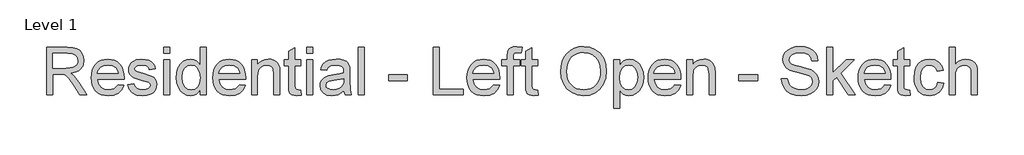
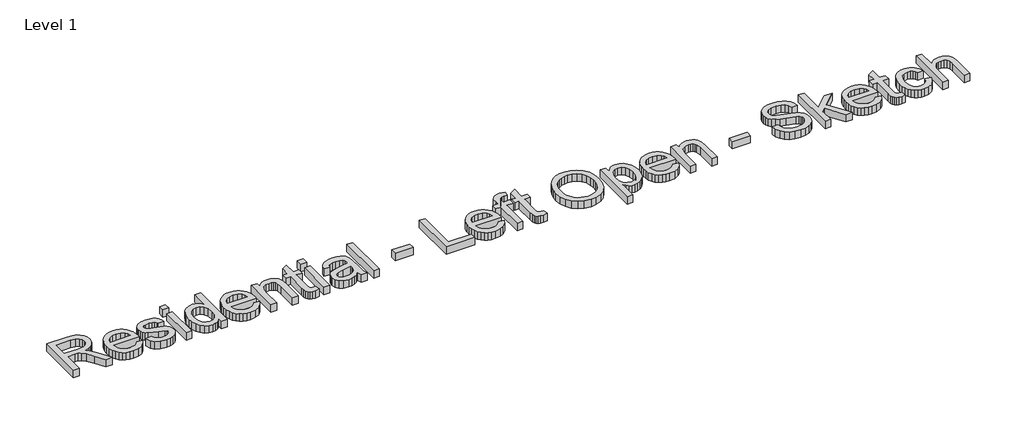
# One storey, part 21 of 26: 1 proxy.
"""IFC4 building model written with IfcOpenShell, lengths in millimetres."""

from ifc_helpers import new_model, si_unit, origin, origin_with_axes, place, context, project, spatial, polyline, outline, extrude, element, save

model = new_model("IFC4")

# Units and contexts
model_context = context("Model", 3, world=origin())
ifc_project = project(units=[si_unit("LENGTHUNIT", "METRE", prefix="MILLI")], contexts=[model_context])

# Site, building, storey
site = spatial("IfcSite", under=ifc_project)
building = spatial("IfcBuilding", under=site)
storey = spatial("IfcBuildingStorey", under=building, Name="Level 1", Elevation=0.0)

# Proxy
placement = place(None, origin())
element("IfcBuildingElementProxy", 1, Name="12\" Arial", ObjectType="12\" Arial", at=placement, inside=storey, context=model_context, shape_type="SweptSolid", body=[
    extrude(outline(polyline([(-4715.4981187, 332.8767877), (-4715.4981187, 632.987557), (-4586.1779264, 632.987557), (-4551.420835, 630.9634945), (-4526.1337918, 624.891307), (-4507.6516283, 613.6811146), (-4493.3091764, 596.2430377), (-4484.1047293, 574.619456), (-4481.0365802, 550.8527493), (-4486.1196331, 521.2886146), (-4501.3687918, 496.780057), (-4512.9201439, 486.7925449), (-4527.2419889, 478.8107781), (-4564.1971571, 468.86448), (-4542.875811, 452.8185185), (-4512.4690802, 414.2056339), (-4462.4261956, 332.8767877), (-4506.0213879, 332.8767877), (-4545.0738879, 395.0823646), (-4573.2825418, 436.2596723), (-4593.1018687, 455.7126531), (-4610.9429264, 462.8564031), (-4632.7038879, 464.1752493), (-4677.9842725, 464.1752493), (-4677.9842725, 332.8767877), (-4715.4981187, 332.8767877)]), holes=[polyline([(-4677.9842725, 501.6890954), (-4594.0177341, 501.6890954), (-4569.9029985, 503.0171002), (-4551.1918687, 507.0011146), (-4537.1058591, 513.9067396), (-4526.8664841, 523.9995762), (-4520.6294408, 536.2080618), (-4518.5504264, 549.4606339), (-4522.5161235, 567.7596243), (-4534.4132148, 582.505057), (-4554.8828062, 592.2315473), (-4584.5660033, 595.4737108), (-4677.9842725, 595.4737108), (-4677.9842725, 501.6890954)])]), origin_with_axes(), (0.0, 0.0, 1.0), 50.8),
    extrude(outline(polyline([(-4265.7715802, 398.5260185), (-4228.9904264, 393.8367877), (-4242.2429985, 366.1227012), (-4263.3903302, 345.4058262), (-4291.9561716, 332.4921243), (-4327.4642725, 328.187557), (-4350.7409913, 330.044474), (-4371.4807629, 335.6152252), (-4389.6835874, 344.8998106), (-4405.3494648, 357.89823), (-4417.9471932, 374.2487168), (-4426.9455706, 393.5895041), (-4432.344597, 415.9205918), (-4434.1442725, 441.24198), (-4432.3262797, 467.4219921), (-4426.8723014, 490.4972204), (-4417.7823374, 510.4676651), (-4405.0563879, 527.3333262), (-4389.4317244, 540.7324368), (-4371.6456187, 550.30323), (-4351.6980706, 556.045706), (-4329.5890802, 557.9598646), (-4308.1921752, 556.0502853), (-4288.8422293, 550.3215473), (-4271.5392425, 540.7736507), (-4256.2832148, 527.4065954), (-4243.8297353, 510.577569), (-4234.9343927, 490.6437589), (-4229.5971872, 467.6051651), (-4227.8181187, 441.4617877), (-4228.0379264, 431.3506339), (-4396.6304264, 431.3506339), (-4390.1369408, 403.2702012), (-4375.0526379, 382.6265954), (-4353.2825177, 369.9327012), (-4326.7315802, 365.7014031), (-4306.7657148, 367.661355), (-4289.9504264, 373.5412108), (-4276.2857148, 383.7073166), (-4265.7715802, 398.5260185)]), holes=[polyline([(-4396.6304264, 468.86448), (-4265.3319648, 468.86448), (-4270.4058591, 488.683807), (-4280.3521571, 502.8614031), (-4302.2230225, 516.0498646), (-4329.7356187, 520.4460185), (-4355.0226619, 516.9382541), (-4375.9318687, 506.4149608), (-4390.4666523, 490.0118118), (-4396.6304264, 468.86448)])]), origin_with_axes(), (0.0, 0.0, 1.0), 50.8),
    extrude(outline(polyline([(-4204.3719648, 398.5260185), (-4166.8581187, 403.2152493), (-4160.9416283, 387.1692877), (-4149.493311, 375.3729416), (-4132.4398975, 368.1192877), (-4109.7081187, 365.7014031), (-4087.2510994, 367.9177973), (-4071.4615802, 374.56698), (-4062.1197533, 384.2018839), (-4059.005811, 395.3754416), (-4062.1380706, 404.9370762), (-4071.5348494, 412.2273646), (-4110.1477341, 422.9246723), (-4166.638311, 441.2786146), (-4180.9349696, 450.5013791), (-4191.2934071, 462.7098646), (-4197.5854023, 477.1255858), (-4199.6827341, 492.970057), (-4197.9975418, 507.5048406), (-4192.9419648, 520.9222685), (-4184.973936, 532.6911387), (-4174.5513879, 542.2802493), (-4150.7022533, 553.3805377), (-4118.4271571, 557.9598646), (-4094.010186, 556.1189752), (-4072.7804264, 550.596307), (-4055.7086956, 541.9322204), (-4043.765811, 530.6670762), (-4035.8527341, 515.9674368), (-4030.8704264, 496.9998646), (-4068.3842725, 492.3106339), (-4073.1192966, 504.1161387), (-4082.4885994, 513.0091916), (-4096.5837677, 518.5868118), (-4115.4963879, 520.4460185), (-4137.0375418, 518.6692396), (-4151.398311, 513.3389031), (-4159.4762437, 505.6456339), (-4162.1688879, 496.780057), (-4157.6994648, 485.8629416), (-4143.7050418, 477.5835185), (-4111.393311, 469.5971723), (-4056.3314841, 451.9392877), (-4041.7875418, 443.4950089), (-4030.7605225, 431.9367877), (-4023.8091043, 417.2279896), (-4021.4919648, 399.33198), (-4024.212085, 380.8314993), (-4032.3724456, 363.430057), (-4045.6616523, 348.4922925), (-4063.768311, 337.3828454), (-4085.6391764, 330.4863791), (-4110.2210033, 328.187557), (-4148.0462437, 332.6203454), (-4175.6504264, 345.9187108), (-4194.0776379, 367.9361146), (-4204.3719648, 398.5260185)])), origin_with_axes(), (0.0, 0.0, 1.0), 50.8),
    extrude(outline(polyline([(-3979.2888879, 332.8767877), (-3979.2888879, 553.2706339), (-3941.7750418, 553.2706339), (-3941.7750418, 332.8767877), (-3979.2888879, 332.8767877)])), origin_with_axes(), (0.0, 0.0, 1.0), 50.8),
    extrude(outline(polyline([(-3979.2888879, 595.4737108), (-3979.2888879, 632.987557), (-3941.7750418, 632.987557), (-3941.7750418, 595.4737108), (-3979.2888879, 595.4737108)])), origin_with_axes(), (0.0, 0.0, 1.0), 50.8),
    extrude(outline(polyline([(-3749.5165802, 332.8767877), (-3749.5165802, 368.2658262), (-3760.7405105, 350.7315834), (-3774.3365321, 338.2071243), (-3790.3046451, 330.6924488), (-3808.6448494, 328.187557), (-3832.8969648, 331.8143839), (-3855.0975418, 342.6948646), (-3873.8910994, 360.068831), (-3887.9221571, 383.1761146), (-3896.6595129, 411.0825329), (-3899.5719648, 442.8539031), (-3896.8884793, 474.2314512), (-3888.8380225, 502.5683262), (-3875.4297533, 526.252605), (-3856.6728302, 543.6723646), (-3833.9868446, 554.3879896), (-3808.7913879, 557.9598646), (-3790.4374456, 555.4046002), (-3774.208311, 547.738807), (-3760.4520129, 535.9882541), (-3749.5165802, 521.1787108), (-3749.5165802, 632.987557), (-3712.0027341, 632.987557), (-3712.0027341, 332.8767877), (-3749.5165802, 332.8767877)]), holes=[polyline([(-3862.0581187, 443.0004416), (-3857.8268206, 409.0676291), (-3845.1329264, 384.9345762), (-3826.6873975, 370.5096964), (-3805.2011956, 365.7014031), (-3783.7241523, 370.2898887), (-3765.7457148, 384.0553454), (-3753.5738639, 407.2542156), (-3749.5165802, 440.1429416), (-3753.6471331, 476.0998166), (-3766.0387918, 501.0296723), (-3784.4751619, 515.591932), (-3806.7398494, 520.4460185), (-3828.4458591, 515.7842637), (-3846.2319648, 501.7989993), (-3858.1015802, 477.7758502), (-3862.0581187, 443.0004416)])]), origin_with_axes(), (0.0, 0.0, 1.0), 50.8),
    extrude(outline(polyline([(-3501.4269648, 398.5260185), (-3464.645811, 393.8367877), (-3477.8983831, 366.1227012), (-3499.0457148, 345.4058262), (-3527.6115562, 332.4921243), (-3563.1196571, 328.187557), (-3586.3963759, 330.044474), (-3607.1361475, 335.6152252), (-3625.338972, 344.8998106), (-3641.0048494, 357.89823), (-3653.6025778, 374.2487168), (-3662.6009552, 393.5895041), (-3667.9999817, 415.9205918), (-3669.7996571, 441.24198), (-3667.9816643, 467.4219921), (-3662.527686, 490.4972204), (-3653.437722, 510.4676651), (-3640.7117725, 527.3333262), (-3625.0871091, 540.7324368), (-3607.3010033, 550.30323), (-3587.3534552, 556.045706), (-3565.2444648, 557.9598646), (-3543.8475598, 556.0502853), (-3524.4976139, 550.3215473), (-3507.1946271, 540.7736507), (-3491.9385994, 527.4065954), (-3479.4851199, 510.577569), (-3470.5897773, 490.6437589), (-3465.2525718, 467.6051651), (-3463.4735033, 441.4617877), (-3463.693311, 431.3506339), (-3632.285811, 431.3506339), (-3625.7923254, 403.2702012), (-3610.7080225, 382.6265954), (-3588.9379023, 369.9327012), (-3562.3869648, 365.7014031), (-3542.4210994, 367.661355), (-3525.605811, 373.5412108), (-3511.9410994, 383.7073166), (-3501.4269648, 398.5260185)]), holes=[polyline([(-3632.285811, 468.86448), (-3500.9873494, 468.86448), (-3506.0612437, 488.683807), (-3516.0075418, 502.8614031), (-3537.8784071, 516.0498646), (-3565.3910033, 520.4460185), (-3590.6780466, 516.9382541), (-3611.5872533, 506.4149608), (-3626.1220369, 490.0118118), (-3632.285811, 468.86448)])]), origin_with_axes(), (0.0, 0.0, 1.0), 50.8),
    extrude(outline(polyline([(-3425.9596571, 332.8767877), (-3425.9596571, 553.2706339), (-3388.445811, 553.2706339), (-3388.445811, 522.497557), (-3375.4130466, 538.0123166), (-3359.7609071, 549.0942877), (-3341.4893927, 555.7434704), (-3320.5985033, 557.9598646), (-3302.1071812, 556.1739271), (-3285.1728302, 550.8161146), (-3271.050186, 542.5550089), (-3260.9939841, 532.0591916), (-3249.7471571, 504.4733262), (-3247.7688879, 468.205057), (-3247.7688879, 332.8767877), (-3285.2827341, 332.8767877), (-3285.2827341, 463.14948), (-3289.6056187, 496.3404416), (-3295.5862196, 506.2226291), (-3304.8822533, 513.8884223), (-3316.7976619, 518.8066195), (-3330.6363879, 520.4460185), (-3352.6079985, 516.7642396), (-3371.3374456, 505.7189031), (-3378.8223555, 496.7022084), (-3384.1687196, 484.3792396), (-3388.445811, 449.81448), (-3388.445811, 332.8767877), (-3425.9596571, 332.8767877)])), origin_with_axes(), (0.0, 0.0, 1.0), 50.8),
    extrude(outline(polyline([(-3116.4704264, 364.1627493), (-3111.7811956, 331.7777493), (-3139.843311, 328.187557), (-3157.8492244, 329.7445281), (-3171.275811, 334.4154416), (-3180.7641764, 341.6141435), (-3186.9554264, 350.75448), (-3190.3624456, 366.4524127), (-3191.4981187, 393.3239031), (-3191.4981187, 515.7567877), (-3219.6335033, 515.7567877), (-3219.6335033, 553.2706339), (-3191.4981187, 553.2706339), (-3191.4981187, 606.8304416), (-3153.9842725, 628.88448), (-3153.9842725, 553.2706339), (-3116.4704264, 553.2706339), (-3116.4704264, 515.7567877), (-3153.9842725, 515.7567877), (-3153.9842725, 394.4229416), (-3152.0060033, 375.0798646), (-3145.5949456, 368.2291916), (-3132.8094648, 365.7014031), (-3116.4704264, 364.1627493)])), origin_with_axes(), (0.0, 0.0, 1.0), 50.8),
    extrude(outline(polyline([(-3078.9565802, 332.8767877), (-3078.9565802, 553.2706339), (-3041.4427341, 553.2706339), (-3041.4427341, 332.8767877), (-3078.9565802, 332.8767877)])), origin_with_axes(), (0.0, 0.0, 1.0), 50.8),
    extrude(outline(polyline([(-3078.9565802, 595.4737108), (-3078.9565802, 632.987557), (-3041.4427341, 632.987557), (-3041.4427341, 595.4737108), (-3078.9565802, 595.4737108)])), origin_with_axes(), (0.0, 0.0, 1.0), 50.8),
    extrude(outline(polyline([(-2844.4950418, 361.0121723), (-2862.4185273, 345.6439512), (-2880.8732148, 335.5877493), (-2900.2804023, 330.037605), (-2921.0613879, 328.187557), (-2952.41146, 332.6386627), (-2975.537061, 345.99198), (-2989.797085, 366.2692396), (-2994.5504264, 391.4921723), (-2992.7553302, 407.0435666), (-2987.3700418, 421.1662108), (-2979.0631427, 433.2556339), (-2968.5032148, 442.7073646), (-2942.2361956, 455.0165954), (-2909.7779264, 460.6583262), (-2871.4214841, 466.5931339), (-2844.7148494, 473.5537108), (-2844.4950418, 481.9064031), (-2847.0777821, 498.6484223), (-2854.8260033, 509.6021723), (-2872.1541764, 517.735057), (-2896.2963879, 520.4460185), (-2918.6435033, 518.6417637), (-2934.2498494, 513.2289993), (-2944.8922052, 503.2185906), (-2952.3473494, 487.6214031), (-2989.8611956, 492.3106339), (-2983.3493927, 512.8260185), (-2973.632061, 528.9452493), (-2959.8024937, 541.2727973), (-2940.9539841, 550.4131339), (-2917.9016523, 556.073182), (-2891.4606187, 557.9598646), (-2866.1003062, 556.2929896), (-2845.997061, 551.2923646), (-2830.8394889, 543.7731098), (-2820.3161956, 534.5503454), (-2813.3373014, 523.1478214), (-2808.8129264, 509.0892877), (-2806.9811956, 476.2646723), (-2806.9811956, 429.5921723), (-2805.0761956, 364.4191916), (-2797.6027341, 332.8767877), (-2835.1165802, 332.8767877), (-2844.4950418, 361.0121723)]), holes=[polyline([(-2844.4950418, 436.0398646), (-2905.0154264, 424.5365954), (-2937.2905225, 418.4552493), (-2951.9077341, 408.5639031), (-2957.0365802, 394.1298646), (-2954.2431908, 382.9746243), (-2945.8630225, 373.8342877), (-2932.0792485, 367.7346243), (-2913.0750418, 365.7014031), (-2892.9260033, 367.9452733), (-2875.1215802, 374.6768839), (-2860.6875418, 384.595706), (-2850.6496571, 396.4012108), (-2846.1985514, 408.5639031), (-2844.7148494, 425.4158262), (-2844.4950418, 436.0398646)])]), origin_with_axes(), (0.0, 0.0, 1.0), 50.8),
    extrude(outline(polyline([(-2755.3996571, 332.8767877), (-2755.3996571, 632.987557), (-2717.885811, 632.987557), (-2717.885811, 332.8767877), (-2755.3996571, 332.8767877)])), origin_with_axes(), (0.0, 0.0, 1.0), 50.8),
    extrude(outline(polyline([(-2563.1411956, 421.9721723), (-2563.1411956, 459.4860185), (-2445.9104264, 459.4860185), (-2445.9104264, 421.9721723), (-2563.1411956, 421.9721723)])), origin_with_axes(), (0.0, 0.0, 1.0), 50.8),
    extrude(outline(polyline([(-2281.7873494, 332.8767877), (-2281.7873494, 632.987557), (-2244.2735033, 632.987557), (-2244.2735033, 370.3906339), (-2094.2181187, 370.3906339), (-2094.2181187, 332.8767877), (-2281.7873494, 332.8767877)])), origin_with_axes(), (0.0, 0.0, 1.0), 50.8),
    extrude(outline(polyline([(-1902.3992725, 398.5260185), (-1865.6181187, 393.8367877), (-1878.8706908, 366.1227012), (-1900.0180225, 345.4058262), (-1928.5838639, 332.4921243), (-1964.0919648, 328.187557), (-1987.3686836, 330.044474), (-2008.1084552, 335.6152252), (-2026.3112797, 344.8998106), (-2041.9771571, 357.89823), (-2054.5748855, 374.2487168), (-2063.5732629, 393.5895041), (-2068.9722893, 415.9205918), (-2070.7719648, 441.24198), (-2068.953972, 467.4219921), (-2063.4999937, 490.4972204), (-2054.4100297, 510.4676651), (-2041.6840802, 527.3333262), (-2026.0594168, 540.7324368), (-2008.273311, 550.30323), (-1988.3257629, 556.045706), (-1966.2167725, 557.9598646), (-1944.8198675, 556.0502853), (-1925.4699216, 550.3215473), (-1908.1669348, 540.7736507), (-1892.9109071, 527.4065954), (-1880.4574276, 510.577569), (-1871.562085, 490.6437589), (-1866.2248795, 467.6051651), (-1864.445811, 441.4617877), (-1864.6656187, 431.3506339), (-2033.2581187, 431.3506339), (-2026.7646331, 403.2702012), (-2011.6803302, 382.6265954), (-1989.91021, 369.9327012), (-1963.3592725, 365.7014031), (-1943.3934071, 367.661355), (-1926.5781187, 373.5412108), (-1912.9134071, 383.7073166), (-1902.3992725, 398.5260185)]), holes=[polyline([(-2033.2581187, 468.86448), (-1901.9596571, 468.86448), (-1907.0335514, 488.683807), (-1916.9798494, 502.8614031), (-1938.8507148, 516.0498646), (-1966.363311, 520.4460185), (-1991.6503543, 516.9382541), (-2012.559561, 506.4149608), (-2027.0943446, 490.0118118), (-2033.2581187, 468.86448)])]), origin_with_axes(), (0.0, 0.0, 1.0), 50.8),
    extrude(outline(polyline([(-1817.5535033, 332.8767877), (-1817.5535033, 515.7567877), (-1850.3781187, 515.7567877), (-1850.3781187, 553.2706339), (-1817.5535033, 553.2706339), (-1817.5535033, 575.4712108), (-1813.5969648, 606.7571723), (-1806.0502341, 619.2312589), (-1794.4004264, 629.1042877), (-1778.0980225, 635.5336627), (-1756.5935033, 637.6767877), (-1722.3767725, 633.5737108), (-1727.8719648, 598.40448), (-1749.4863879, 600.1629416), (-1763.7464119, 598.6059704), (-1773.1157148, 593.935057), (-1778.3086716, 585.0145281), (-1780.0396571, 570.7087108), (-1780.0396571, 553.2706339), (-1737.8365802, 553.2706339), (-1737.8365802, 515.7567877), (-1780.0396571, 515.7567877), (-1780.0396571, 332.8767877), (-1817.5535033, 332.8767877)])), origin_with_axes(), (0.0, 0.0, 1.0), 50.8),
    extrude(outline(polyline([(-1625.2950418, 364.1627493), (-1620.605811, 331.7777493), (-1648.6679264, 328.187557), (-1666.6738398, 329.7445281), (-1680.1004264, 334.4154416), (-1689.5887918, 341.6141435), (-1695.7800418, 350.75448), (-1699.187061, 366.4524127), (-1700.3227341, 393.3239031), (-1700.3227341, 515.7567877), (-1728.4581187, 515.7567877), (-1728.4581187, 553.2706339), (-1700.3227341, 553.2706339), (-1700.3227341, 606.8304416), (-1662.8088879, 628.88448), (-1662.8088879, 553.2706339), (-1625.2950418, 553.2706339), (-1625.2950418, 515.7567877), (-1662.8088879, 515.7567877), (-1662.8088879, 394.4229416), (-1660.8306187, 375.0798646), (-1654.419561, 368.2291916), (-1641.6340802, 365.7014031), (-1625.2950418, 364.1627493)])), origin_with_axes(), (0.0, 0.0, 1.0), 50.8),
    extrude(outline(polyline([(-1479.9288879, 478.9756339), (-1477.4285754, 514.1769199), (-1469.9276379, 545.3392396), (-1457.4260754, 572.462593), (-1439.9238879, 595.54698), (-1418.4697413, 613.9787709), (-1394.1123014, 627.1443358), (-1366.8515682, 635.0436747), (-1336.6875418, 637.6767877), (-1297.3236475, 632.7311146), (-1262.0261956, 617.8940954), (-1232.7185033, 594.2098166), (-1211.3238879, 562.7223646), (-1198.2453302, 524.9520762), (-1193.885811, 482.4192877), (-1198.4742966, 439.3186627), (-1212.2397533, 401.0171723), (-1234.4220129, 369.4747685), (-1264.2609071, 346.6514031), (-1299.2561235, 332.8035185), (-1336.9073494, 328.187557), (-1376.8757148, 333.2889271), (-1412.3746571, 348.5930377), (-1441.6090802, 372.716932), (-1462.7838879, 404.2776531), (-1475.6426379, 440.5917156), (-1479.9288879, 478.9756339)]), holes=[polyline([(-1442.4150418, 478.6092877), (-1440.5398074, 453.7389632), (-1434.9141043, 431.6620281), (-1425.5379324, 412.3784824), (-1412.4112918, 395.8883262), (-1396.4546271, 382.6815473), (-1378.5883831, 373.2481339), (-1358.8125598, 367.5880858), (-1337.1271571, 365.7014031), (-1315.070829, 367.6064031), (-1295.06146, 373.3214031), (-1277.0990502, 382.8464031), (-1261.1835994, 396.1814031), (-1248.1531247, 413.0195882), (-1238.8456427, 433.0541435), (-1233.2611535, 456.285069), (-1231.3996571, 482.7123646), (-1234.5868687, 515.9216435), (-1244.1485033, 544.6248646), (-1259.8372773, 568.0984945), (-1281.4059071, 585.6189993), (-1307.4256427, 596.526956), (-1336.4677341, 600.1629416), (-1357.3998374, 598.411349), (-1376.8207629, 593.1565714), (-1394.7305105, 584.3986086), (-1411.1290802, 572.1374608), (-1424.8166884, 555.7823947), (-1434.5935514, 534.7426771), (-1440.4596692, 509.0183082), (-1442.4150418, 478.6092877)])]), origin_with_axes(), (0.0, 0.0, 1.0), 50.8),
    extrude(outline(polyline([(-1146.9935033, 248.4706339), (-1146.9935033, 553.2706339), (-1109.4796571, 553.2706339), (-1109.4796571, 516.48948), (-1097.2436956, 534.6327733), (-1083.5423494, 547.5922685), (-1067.5696571, 555.3679656), (-1048.5196571, 557.9598646), (-1023.150186, 554.3330377), (-1000.9679264, 543.452557), (-982.907061, 525.9778454), (-969.9017725, 502.5683262), (-962.0436475, 474.9275089), (-959.4242725, 444.7589031), (-962.3825177, 412.6761387), (-971.2572533, 383.9820762), (-985.764561, 360.1329416), (-1005.6205225, 342.5849608), (-1028.7461235, 331.7869079), (-1053.0623494, 328.187557), (-1070.3080946, 330.5962829), (-1085.7037918, 337.8224608), (-1098.8830946, 348.7304175), (-1109.4796571, 362.18448), (-1109.4796571, 248.4706339), (-1146.9935033, 248.4706339)]), holes=[polyline([(-1109.4796571, 441.3152493), (-1105.4223735, 407.6846723), (-1093.2505225, 384.1652493), (-1075.2904023, 370.3173646), (-1053.868311, 365.7014031), (-1032.0981908, 370.4822204), (-1013.6801379, 384.8246723), (-1001.1236235, 409.2050089), (-996.9381187, 444.09948), (-1001.0228783, 477.5468839), (-1013.2771571, 501.3960185), (-1031.2098014, 515.6835185), (-1052.3296571, 520.4460185), (-1073.5319408, 515.3812829), (-1092.1514841, 500.1870762), (-1105.1476139, 475.3396483), (-1109.4796571, 441.3152493)])]), origin_with_axes(), (0.0, 0.0, 1.0), 50.8),
    extrude(outline(polyline([(-762.9161956, 398.5260185), (-726.1350418, 393.8367877), (-739.3876139, 366.1227012), (-760.5349456, 345.4058262), (-789.1007869, 332.4921243), (-824.6088879, 328.187557), (-847.8856067, 330.044474), (-868.6253783, 335.6152252), (-886.8282028, 344.8998106), (-902.4940802, 357.89823), (-915.0918086, 374.2487168), (-924.090186, 393.5895041), (-929.4892124, 415.9205918), (-931.2888879, 441.24198), (-929.4708951, 467.4219921), (-924.0169168, 490.4972204), (-914.9269528, 510.4676651), (-902.2010033, 527.3333262), (-886.5763398, 540.7324368), (-868.7902341, 550.30323), (-848.842686, 556.045706), (-826.7336956, 557.9598646), (-805.3367905, 556.0502853), (-785.9868446, 550.3215473), (-768.6838579, 540.7736507), (-753.4278302, 527.4065954), (-740.9743506, 510.577569), (-732.0790081, 490.6437589), (-726.7418026, 467.6051651), (-724.9627341, 441.4617877), (-725.1825418, 431.3506339), (-893.7750418, 431.3506339), (-887.2815562, 403.2702012), (-872.1972533, 382.6265954), (-850.4271331, 369.9327012), (-823.8761956, 365.7014031), (-803.9103302, 367.661355), (-787.0950418, 373.5412108), (-773.4303302, 383.7073166), (-762.9161956, 398.5260185)]), holes=[polyline([(-893.7750418, 468.86448), (-762.4765802, 468.86448), (-767.5504744, 488.683807), (-777.4967725, 502.8614031), (-799.3676379, 516.0498646), (-826.8802341, 520.4460185), (-852.1672773, 516.9382541), (-873.0764841, 506.4149608), (-887.6112677, 490.0118118), (-893.7750418, 468.86448)])]), origin_with_axes(), (0.0, 0.0, 1.0), 50.8),
    extrude(outline(polyline([(-687.4488879, 332.8767877), (-687.4488879, 553.2706339), (-649.9350418, 553.2706339), (-649.9350418, 522.497557), (-636.9022773, 538.0123166), (-621.2501379, 549.0942877), (-602.9786235, 555.7434704), (-582.0877341, 557.9598646), (-563.5964119, 556.1739271), (-546.662061, 550.8161146), (-532.5394168, 542.5550089), (-522.4832148, 532.0591916), (-511.2363879, 504.4733262), (-509.2581187, 468.205057), (-509.2581187, 332.8767877), (-546.7719648, 332.8767877), (-546.7719648, 463.14948), (-551.0948494, 496.3404416), (-557.0754504, 506.2226291), (-566.3714841, 513.8884223), (-578.2868927, 518.8066195), (-592.1256187, 520.4460185), (-614.0972293, 516.7642396), (-632.8266764, 505.7189031), (-640.3115862, 496.7022084), (-645.6579504, 484.3792396), (-649.9350418, 449.81448), (-649.9350418, 332.8767877), (-687.4488879, 332.8767877)])), origin_with_axes(), (0.0, 0.0, 1.0), 50.8),
    extrude(outline(polyline([(-359.2027341, 421.9721723), (-359.2027341, 459.4860185), (-241.9719648, 459.4860185), (-241.9719648, 421.9721723), (-359.2027341, 421.9721723)])), origin_with_axes(), (0.0, 0.0, 1.0), 50.8),
    extrude(outline(polyline([(-91.9165802, 436.0398646), (-54.4027341, 436.0398646), (-50.0981668, 415.2222445), (-42.313311, 398.4893839), (-30.168936, 385.2093358), (-12.785811, 374.7501531), (8.4622659, 367.9635906), (32.2014967, 365.7014031), (53.1015448, 367.4140714), (71.4005352, 372.5520762), (86.2283957, 380.6849608), (96.7150544, 391.3822685), (102.9520977, 403.6640233), (105.0311121, 416.5502493), (103.4741409, 429.1067637), (98.8032275, 439.9597685), (89.3148621, 449.2191675), (73.3055352, 456.9948646), (18.6833236, 471.3189993), (-17.1728062, 480.798206), (-40.1152341, 489.81948), (-58.7897293, 502.440105), (-72.0239841, 517.735057), (-79.909585, 535.3746243), (-82.5381187, 555.0290954), (-79.2867966, 577.000706), (-69.5328302, 597.4886146), (-53.5326619, 614.8534223), (-31.5427341, 627.45573), (-5.1474937, 635.1215233), (24.0686121, 637.6767877), (55.7209198, 635.0024608), (83.416689, 626.97948), (106.1667852, 613.7727012), (122.9820736, 595.54698), (133.6244294, 573.4379896), (137.8557275, 548.5814031), (100.3418813, 548.5814031), (93.4545736, 570.9651531), (79.0938044, 587.1210185), (56.6551025, 596.9024608), (25.5339967, 600.1629416), (-6.3198014, 596.9390954), (-28.1723494, 587.267557), (-40.8112918, 573.0350089), (-45.0242725, 556.1281339), (-42.0385514, 541.7124127), (-33.0813879, 530.117557), (-11.9065802, 519.7499608), (28.171689, 509.162557), (69.5321698, 499.106355), (94.5536121, 490.3323646), (115.9390688, 476.722605), (130.8585159, 459.9256339), (139.6233477, 440.1246243), (142.5449582, 417.5027493), (139.1837323, 394.3771483), (129.1000544, 372.6253454), (112.706064, 353.905057), (90.4139006, 339.8739993), (63.6065207, 331.1091675), (33.6668813, 328.187557), (-3.0867966, 331.3381339), (-33.3378302, 340.7898646), (-57.4342485, 356.5793839), (-75.7240802, 378.7433262), (-87.4654744, 405.7430377), (-91.9165802, 436.0398646)])), origin_with_axes(), (0.0, 0.0, 1.0), 50.8),
    extrude(outline(polyline([(194.1264967, 332.8767877), (194.1264967, 632.987557), (231.6403429, 632.987557), (231.6403429, 471.72198), (315.7534198, 553.2706339), (367.6280352, 553.2706339), (282.489189, 470.6962108), (372.3172659, 332.8767877), (328.5022659, 332.8767877), (255.5993813, 444.6123646), (231.6403429, 421.3860185), (231.6403429, 332.8767877), (194.1264967, 332.8767877)])), origin_with_axes(), (0.0, 0.0, 1.0), 50.8),
    extrude(outline(polyline([(559.4468813, 398.5260185), (596.2280352, 393.8367877), (582.9754631, 366.1227012), (561.8281313, 345.4058262), (533.26229, 332.4921243), (497.754189, 328.187557), (474.4774703, 330.044474), (453.7376986, 335.6152252), (435.5348741, 344.8998106), (419.8689967, 357.89823), (407.2712683, 374.2487168), (398.2728909, 393.5895041), (392.8738645, 415.9205918), (391.074189, 441.24198), (392.8921818, 467.4219921), (398.3461602, 490.4972204), (407.4361241, 510.4676651), (420.1620736, 527.3333262), (435.7867371, 540.7324368), (453.5728429, 550.30323), (473.5203909, 556.045706), (495.6293813, 557.9598646), (517.0262864, 556.0502853), (536.3762323, 550.3215473), (553.6792191, 540.7736507), (568.9352467, 527.4065954), (581.3887263, 510.577569), (590.2840688, 490.6437589), (595.6212744, 467.6051651), (597.4003429, 441.4617877), (597.1805352, 431.3506339), (428.5880352, 431.3506339), (435.0815207, 403.2702012), (450.1658236, 382.6265954), (471.9359438, 369.9327012), (498.4868813, 365.7014031), (518.4527467, 367.661355), (535.2680352, 373.5412108), (548.9327467, 383.7073166), (559.4468813, 398.5260185)]), holes=[polyline([(428.5880352, 468.86448), (559.8864967, 468.86448), (554.8126025, 488.683807), (544.8663044, 502.8614031), (522.995439, 516.0498646), (495.4828429, 520.4460185), (470.1957996, 516.9382541), (449.2865929, 506.4149608), (434.7518092, 490.0118118), (428.5880352, 468.86448)])]), origin_with_axes(), (0.0, 0.0, 1.0), 50.8),
    extrude(outline(polyline([(714.6311121, 364.1627493), (719.3203429, 331.7777493), (691.2582275, 328.187557), (673.252314, 329.7445281), (659.8257275, 334.4154416), (650.3373621, 341.6141435), (644.1461121, 350.75448), (640.7390929, 366.4524127), (639.6034198, 393.3239031), (639.6034198, 515.7567877), (611.4680352, 515.7567877), (611.4680352, 553.2706339), (639.6034198, 553.2706339), (639.6034198, 606.8304416), (677.1172659, 628.88448), (677.1172659, 553.2706339), (714.6311121, 553.2706339), (714.6311121, 515.7567877), (677.1172659, 515.7567877), (677.1172659, 394.4229416), (679.0955352, 375.0798646), (685.5065929, 368.2291916), (698.2920736, 365.7014031), (714.6311121, 364.1627493)])), origin_with_axes(), (0.0, 0.0, 1.0), 50.8),
    extrude(outline(polyline([(892.8218813, 412.5937108), (930.3357275, 407.90448), (919.8765448, 374.5395041), (900.2220736, 349.32573), (873.2223621, 333.4721002), (840.7274582, 328.187557), (819.6877407, 330.030736), (800.8232034, 335.5602733), (784.1338465, 344.7761687), (769.6196698, 357.6784223), (757.8714066, 374.0243298), (749.47979, 393.5711868), (744.44482, 416.3189933), (742.7664967, 442.2677493), (745.6331554, 475.6510425), (754.2331313, 504.58323), (768.7038044, 527.946956), (789.1825544, 544.6248646), (813.6819534, 554.6261146), (840.2145736, 557.9598646), (871.9126746, 553.3805377), (897.2546698, 539.642557), (915.4345977, 517.4786146), (925.6464967, 487.6214031), (888.1326506, 482.9321723), (881.3277707, 499.2986868), (870.7312082, 511.0309223), (856.9291169, 518.0922445), (840.5076506, 520.4460185), (816.2646938, 515.8117396), (797.0223621, 501.9089031), (784.4658477, 477.9864993), (780.2803429, 443.2935185), (784.3742611, 408.1334464), (796.6560159, 384.1286146), (815.5503188, 370.308206), (839.4818813, 365.7014031), (858.9073861, 368.5772204), (874.8342852, 377.2046723), (886.4199823, 391.8035666), (892.8218813, 412.5937108)])), origin_with_axes(), (0.0, 0.0, 1.0), 50.8),
    extrude(outline(polyline([(963.1603429, 332.8767877), (963.1603429, 632.987557), (1000.674189, 632.987557), (1000.674189, 522.6440954), (1014.4533837, 538.0947445), (1029.9269294, 549.1309223), (1047.094826, 555.7526291), (1065.9570736, 557.9598646), (1088.6155832, 555.5511387), (1108.0868813, 548.3249608), (1123.4184679, 536.8491675), (1133.6578429, 521.6915954), (1139.4277948, 500.8648166), (1141.3511121, 472.3814031), (1141.3511121, 332.8767877), (1103.8372659, 332.8767877), (1103.8372659, 468.4981339), (1100.8515448, 491.9809223), (1091.8943813, 508.0635185), (1077.4603429, 517.3503935), (1058.0439967, 520.4460185), (1042.1903669, 518.3578454), (1027.3075544, 512.0933262), (1014.9800063, 502.256932), (1006.7921698, 489.4531339), (1002.2036842, 472.436355), (1000.674189, 449.9610185), (1000.674189, 332.8767877), (963.1603429, 332.8767877)])), origin_with_axes(), (0.0, 0.0, 1.0), 50.8),
])

save(model, "model.ifc")
